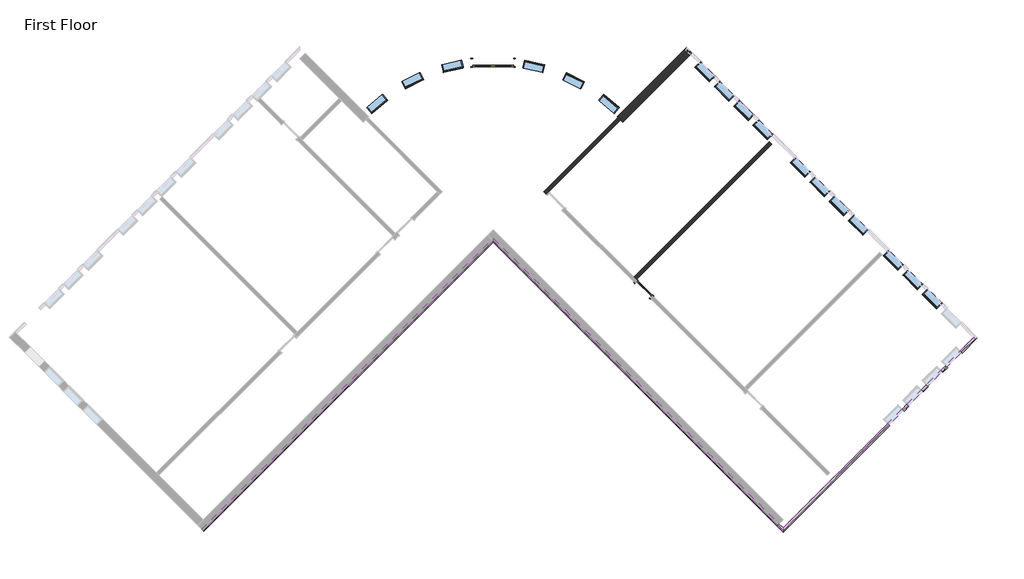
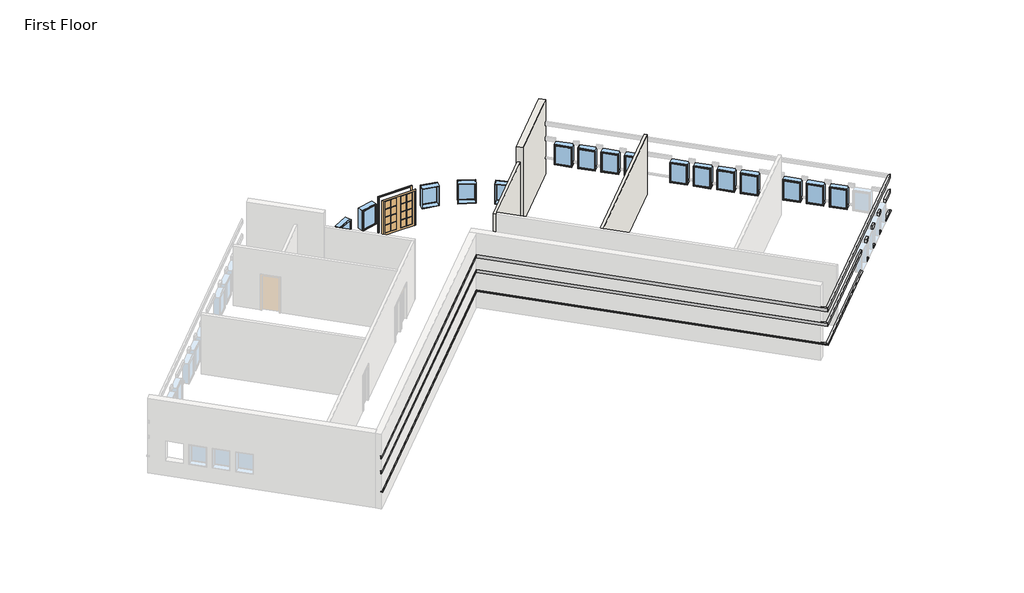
# One storey, part 2 of 3: 17 windows, 9 proxies, 3 walls, 2 doors.
"""IFC4 building model written with IfcOpenShell, lengths in millimetres."""

import ifcopenshell
import ifcopenshell.guid

model = None  # the IFC model being written
_history = None  # IfcOwnerHistory: only IFC2X3 demands one
_inside = {}  # id of a spatial element -> (the spatial element, [elements in it])
_under = {}  # id of a project, library or spatial element -> (it, [spatial elements below it])
_declared = {}  # id of a project -> (the project, [libraries it declares])
_typed = {}  # id of a type object -> (the type object, [elements of that type])
_made_of = {}  # id of a material, layer set ... -> (it, [elements and type objects made of it])


def new_model(schema):
    """Start an empty IFC model of exactly this schema.

    Asked for "IFC4X3", IfcOpenShell would pick the latest addendum, in which some entities
    have other attributes; the version numbers below select the first issue.
    IFC2X3 requires an IfcOwnerHistory on every rooted entity: one is made here for all.
    """
    global model, _history
    if schema == "IFC4X3":
        model = ifcopenshell.file(schema_version=(4, 3, 0, 0))
    else:
        model = ifcopenshell.file(schema=schema)
    _inside.clear()
    _under.clear()
    _declared.clear()
    _typed.clear()
    _made_of.clear()
    _history = None
    if model.schema == "IFC2X3":
        org = make("IfcOrganization", Name="unknown")
        user = make(
            "IfcPersonAndOrganization",
            ThePerson=make("IfcPerson", FamilyName="unknown"),
            TheOrganization=org,
        )
        app = make(
            "IfcApplication",
            ApplicationDeveloper=org,
            Version="unknown",
            ApplicationFullName="unknown",
            ApplicationIdentifier="unknown",
        )
        _history = make(
            "IfcOwnerHistory",
            OwningUser=user,
            OwningApplication=app,
            ChangeAction="ADDED",
            CreationDate=0,
        )
    return model


def make(cls, **values):
    """One entity of the class cls with the attributes given. An attribute that is None is left unset."""
    return model.create_entity(
        cls, **{name: value for name, value in values.items() if value is not None}
    )


def rooted(cls, **values):
    """An entity with a GlobalId (a new one), such as an element, a storey or a relation."""
    return make(cls, GlobalId=ifcopenshell.guid.new(), OwnerHistory=_history, **values)


def si_unit(unit_type, name, prefix=None):
    """IfcSIUnit, for example si_unit("LENGTHUNIT", "METRE", prefix="MILLI")."""
    return make("IfcSIUnit", UnitType=unit_type, Prefix=prefix, Name=name)


def assignment(units):
    """IfcUnitAssignment: the units of a project."""
    return None if units is None else make("IfcUnitAssignment", Units=units)


def point(xyz):
    """IfcCartesianPoint."""
    return None if xyz is None else make("IfcCartesianPoint", Coordinates=xyz)


def direction(xyz):
    """IfcDirection."""
    return None if xyz is None else make("IfcDirection", DirectionRatios=xyz)


def frame(location, z_axis=None, x_axis=None):
    """IfcAxis2Placement3D, a coordinate frame: its origin and axes. An axis left out is left unset."""
    return make(
        "IfcAxis2Placement3D",
        Location=point(location),
        Axis=direction(z_axis),
        RefDirection=direction(x_axis),
    )


def origin():
    """The frame at (0, 0, 0) with its axes left unset."""
    return frame((0.0, 0.0, 0.0))


def origin_with_axes():
    """The frame at (0, 0, 0) with the z axis (0, 0, 1) and the x axis (1, 0, 0) written out."""
    return frame((0.0, 0.0, 0.0), z_axis=(0.0, 0.0, 1.0), x_axis=(1.0, 0.0, 0.0))


def place(relative_to, where):
    """IfcLocalPlacement: puts the frame where relative to a parent placement (None: the world)."""
    return make(
        "IfcLocalPlacement", PlacementRelTo=relative_to, RelativePlacement=where
    )


def context(
    kind, dimensions, precision=None, world=None, true_north=None, identifier=None
):
    """IfcGeometricRepresentationContext, for example the 3D "Model" context."""
    return make(
        "IfcGeometricRepresentationContext",
        ContextIdentifier=identifier,
        ContextType=kind,
        CoordinateSpaceDimension=dimensions,
        Precision=precision,
        WorldCoordinateSystem=world,
        TrueNorth=true_north,
    )


def project(units=None, contexts=None):
    """IfcProject with its units and contexts."""
    return rooted(
        "IfcProject",
        Name="project",
        RepresentationContexts=contexts,
        UnitsInContext=assignment(units),
    )


def spatial(cls, under=None, at=None, **own):
    """A site, building, storey or space (cls), placed at a placement, below another one or the project."""
    s = rooted(cls, ObjectPlacement=at, **own)
    if under is not None:
        _under.setdefault(under.id(), (under, []))[1].append(s)
    return s


def polyline(points):
    """IfcPolyline through the points."""
    return make("IfcPolyline", Points=[point(p) for p in points])


def circle_curve(where, radius):
    """IfcCircle in the frame where."""
    return make("IfcCircle", Position=where, Radius=radius)


def outline(outer, holes=None, kind="AREA"):
    """IfcArbitraryClosedProfileDef: a profile drawn as a closed curve; with holes, ...WithVoids."""
    if holes is None:
        return make("IfcArbitraryClosedProfileDef", ProfileType=kind, OuterCurve=outer)
    return make(
        "IfcArbitraryProfileDefWithVoids",
        ProfileType=kind,
        OuterCurve=outer,
        InnerCurves=holes,
    )


def extrude(swept, where, along, depth):
    """IfcExtrudedAreaSolid: the profile swept, set in the frame where, extruded along a direction by depth."""
    return make(
        "IfcExtrudedAreaSolid",
        SweptArea=swept,
        Position=where,
        ExtrudedDirection=direction(along),
        Depth=depth,
    )


def faces_of(points, faces, orient=None, outer=None):
    """IfcFace entities. A face is a list of loops; a loop is a list of indices into points, from 0.

    orient and outer hold one flag for each loop. By default every Orientation is true, the
    first loop of a face is its IfcFaceOuterBound and the others are IfcFaceBound.
    """
    made = []
    for i, loops in enumerate(faces):
        bounds = []
        for j, loop in enumerate(loops):
            is_outer = j == 0 if outer is None else outer[i][j]
            bounds.append(
                make(
                    "IfcFaceOuterBound" if is_outer else "IfcFaceBound",
                    Bound=make("IfcPolyLoop", Polygon=[points[k] for k in loop]),
                    Orientation=True if orient is None else orient[i][j],
                )
            )
        made.append(make("IfcFace", Bounds=bounds))
    return made


def faceted_brep(points, faces, orient=None, outer=None, voids=None):
    """IfcFacetedBrep: a solid bounded by flat faces; with voids (closed shells), ...WithVoids."""
    shared = [point(p) for p in points]
    hull = make("IfcClosedShell", CfsFaces=faces_of(shared, faces, orient, outer))
    if voids is None:
        return make("IfcFacetedBrep", Outer=hull)
    return make(
        "IfcFacetedBrepWithVoids",
        Outer=hull,
        Voids=[
            make(cls, CfsFaces=faces_of(shared, fs, o, b)) for cls, fs, o, b in voids
        ],
    )


def shape(context_of_items, identifier, shape_type, items):
    """IfcShapeRepresentation: the items that make up one representation, for example the "Body"."""
    return make(
        "IfcShapeRepresentation",
        ContextOfItems=context_of_items,
        RepresentationIdentifier=identifier,
        RepresentationType=shape_type,
        Items=items,
    )


def source(mapping_origin, context_of_items, identifier, shape_type, items):
    """IfcRepresentationMap: a shape defined once, which mapped items show again and again."""
    return make(
        "IfcRepresentationMap",
        MappingOrigin=mapping_origin,
        MappedRepresentation=shape(context_of_items, identifier, shape_type, items),
    )


def transform(
    local_origin,
    x_axis=None,
    y_axis=None,
    z_axis=None,
    scale=None,
    scale2=None,
    scale3=None,
    uniform=True,
):
    """IfcCartesianTransformationOperator3D, or its non-uniform kind. x_axis, y_axis, z_axis: its Axis1, 2, 3."""
    if uniform:
        return make(
            "IfcCartesianTransformationOperator3D",
            Axis1=direction(x_axis),
            Axis2=direction(y_axis),
            LocalOrigin=point(local_origin),
            Scale=scale,
            Axis3=direction(z_axis),
        )
    return make(
        "IfcCartesianTransformationOperator3DnonUniform",
        Axis1=direction(x_axis),
        Axis2=direction(y_axis),
        LocalOrigin=point(local_origin),
        Scale=scale,
        Axis3=direction(z_axis),
        Scale2=scale2,
        Scale3=scale3,
    )


def mapped(mapping_source, mapping_target):
    """IfcMappedItem: shows the shape of a source again, moved by a transform."""
    return make(
        "IfcMappedItem", MappingSource=mapping_source, MappingTarget=mapping_target
    )


def made_of(thing, what):
    """Note that an element or type object is made of a material, layer set ...; save() writes the relation."""
    if what is not None:
        _made_of.setdefault(what.id(), (what, []))[1].append(thing)
    return thing


def element(
    cls,
    number,
    at=None,
    inside=None,
    cuts=None,
    type_object=None,
    material=None,
    context=None,
    identifier="Body",
    shape_type=None,
    held_by="IfcProductDefinitionShape",
    body=None,
    shapes=None,
    **own,
):
    """One element of the class cls, such as IfcWall. Its Tag is "e" and its number.

    at: its placement. inside: the storey or other place that contains it. cuts: it is an
    opening in that element (IfcRelVoidsElement). A single representation is given by context,
    identifier, shape_type and body (its items); several are given by shapes. held_by: the class
    of the entity that holds the representations. save() writes the other relations.
    """
    e = rooted(cls, Tag="e%d" % number, ObjectPlacement=at, **own)
    if body is not None:
        shapes = [shape(context, identifier, shape_type, body)]
    if shapes is not None:
        e.Representation = make(held_by, Representations=shapes)
    if inside is not None:
        _inside.setdefault(inside.id(), (inside, []))[1].append(e)
    if cuts is not None:
        rooted(
            "IfcRelVoidsElement", RelatingBuildingElement=cuts, RelatedOpeningElement=e
        )
    if type_object is not None:
        _typed.setdefault(type_object.id(), (type_object, []))[1].append(e)
    return made_of(e, material)


def aggregate(whole, parts):
    """IfcRelAggregates: a whole, such as a stair, and the parts it consists of."""
    return rooted("IfcRelAggregates", RelatingObject=whole, RelatedObjects=parts)


def save(model, path):
    """Write the relations noted so far, then the file.

    IfcRelAggregates (storeys below a building ...), IfcRelContainedInSpatialStructure (elements
    in a storey), IfcRelDefinesByType, IfcRelAssociatesMaterial and IfcRelDeclares: one each for
    every whole, place, type object, material and project.
    """
    for whole, parts in _under.values():
        aggregate(whole, parts)
    for where, things in _inside.values():
        rooted(
            "IfcRelContainedInSpatialStructure",
            RelatedElements=things,
            RelatingStructure=where,
        )
    for kind, things in _typed.values():
        rooted("IfcRelDefinesByType", RelatedObjects=things, RelatingType=kind)
    for what, things in _made_of.values():
        rooted("IfcRelAssociatesMaterial", RelatedObjects=things, RelatingMaterial=what)
    for by, libraries in _declared.values():
        rooted("IfcRelDeclares", RelatingContext=by, RelatedDefinitions=libraries)
    model.write(path)


def plane_surface(at):
    """IfcPlane: the flat surface through the origin of the frame at, square to its z axis."""
    return make("IfcPlane", Position=at)


def cylinder_surface(at, radius):
    """IfcCylindricalSurface: all points at the distance radius from the z axis of the frame at."""
    return make("IfcCylindricalSurface", Position=at, Radius=radius)


def revolved_surface(curve, axis_point, axis_direction):
    """IfcSurfaceOfRevolution: the curve turned about the line through axis_point along axis_direction."""
    return make(
        "IfcSurfaceOfRevolution",
        SweptCurve=make("IfcArbitraryOpenProfileDef", ProfileType="CURVE", Curve=curve),
        AxisPosition=make("IfcAxis1Placement", Location=point(axis_point), Axis=direction(axis_direction)),
    )


def advanced_brep(points, edges, surfaces, faces):
    """IfcAdvancedBrep: a solid bounded by faces that lie on surfaces and meet in shared edges.

    An edge is (start, end): straight between two places in points (the first is 0);
    or (start, end, curve); or (start, end, curve, False) where it runs against its curve.
    A face is (place in surfaces, loops), or (place, loops, False) where it looks against
    its surface's normal. A loop lists edges by number (the first is 1), with a minus sign
    where the edge is run from its end to its start. The first loop is the outer one.
    """
    corners = [point(p) for p in points]
    vertices = [make("IfcVertexPoint", VertexGeometry=c) for c in corners]
    made = []
    for start, end, *more in edges:
        made.append(
            make(
                "IfcEdgeCurve",
                EdgeStart=vertices[start],
                EdgeEnd=vertices[end],
                EdgeGeometry=more[0] if more else make("IfcPolyline", Points=[corners[start], corners[end]]),
                SameSense=more[1] if len(more) > 1 else True,
            )
        )
    hull = []
    for where, loops, *sense in faces:
        bounds = []
        for j, loop in enumerate(loops):
            ring = [make("IfcOrientedEdge", EdgeElement=made[abs(k) - 1], Orientation=k > 0) for k in loop]
            bounds.append(
                make(
                    "IfcFaceOuterBound" if j == 0 else "IfcFaceBound",
                    Bound=make("IfcEdgeLoop", EdgeList=ring),
                    Orientation=True,
                )
            )
        hull.append(make("IfcAdvancedFace", Bounds=bounds, FaceSurface=surfaces[where], SameSense=sense[0] if sense else True))
    return make("IfcAdvancedBrep", Outer=make("IfcClosedShell", CfsFaces=hull))


def door_0a477ef8(model_context):
    return source(origin(), model_context, "Body", "SweptSolid", [
        extrude(outline(polyline([(469.9, 157.1625), (787.4, 157.1625), (787.4, 144.4625), (469.9, 144.4625), (469.9, 157.1625)])), frame((0.0, 0.0, 1593.85), z_axis=(0.0, 0.0, 1.0), x_axis=(1.0, 0.0, 0.0)), (0.0, 0.0, 1.0), 463.55),
        extrude(outline(polyline([(127.0, 157.1625), (444.5, 157.1625), (444.5, 144.4625), (127.0, 144.4625), (127.0, 157.1625)])), frame((0.0, 0.0, 1593.85), z_axis=(0.0, 0.0, 1.0), x_axis=(1.0, 0.0, 0.0)), (0.0, 0.0, 1.0), 463.55),
        extrude(outline(polyline([(-444.5, 157.1625), (-127.0, 157.1625), (-127.0, 144.4625), (-444.5, 144.4625), (-444.5, 157.1625)])), frame((0.0, 0.0, 1593.85), z_axis=(0.0, 0.0, 1.0), x_axis=(1.0, 0.0, 0.0)), (0.0, 0.0, 1.0), 463.55),
        extrude(outline(polyline([(-787.4, 157.1625), (-469.9, 157.1625), (-469.9, 144.4625), (-787.4, 144.4625), (-787.4, 157.1625)])), frame((0.0, 0.0, 1593.85), z_axis=(0.0, 0.0, 1.0), x_axis=(1.0, 0.0, 0.0)), (0.0, 0.0, 1.0), 463.55),
        extrude(outline(polyline([(-787.4, 157.1625), (-469.9, 157.1625), (-469.9, 144.4625), (-787.4, 144.4625), (-787.4, 157.1625)])), frame((0.0, 0.0, 1104.9), z_axis=(0.0, 0.0, 1.0), x_axis=(1.0, 0.0, 0.0)), (0.0, 0.0, 1.0), 463.55),
        extrude(outline(polyline([(-444.5, 157.1625), (-127.0, 157.1625), (-127.0, 144.4625), (-444.5, 144.4625), (-444.5, 157.1625)])), frame((0.0, 0.0, 1104.9), z_axis=(0.0, 0.0, 1.0), x_axis=(1.0, 0.0, 0.0)), (0.0, 0.0, 1.0), 463.55),
        extrude(outline(polyline([(127.0, 157.1625), (444.5, 157.1625), (444.5, 144.4625), (127.0, 144.4625), (127.0, 157.1625)])), frame((0.0, 0.0, 1104.9), z_axis=(0.0, 0.0, 1.0), x_axis=(1.0, 0.0, 0.0)), (0.0, 0.0, 1.0), 463.55),
        extrude(outline(polyline([(469.9, 157.1625), (787.4, 157.1625), (787.4, 144.4625), (469.9, 144.4625), (469.9, 157.1625)])), frame((0.0, 0.0, 1104.9), z_axis=(0.0, 0.0, 1.0), x_axis=(1.0, 0.0, 0.0)), (0.0, 0.0, 1.0), 463.55),
        extrude(outline(polyline([(469.9, 157.1625), (787.4, 157.1625), (787.4, 144.4625), (469.9, 144.4625), (469.9, 157.1625)])), frame((0.0, 0.0, 615.95), z_axis=(0.0, 0.0, 1.0), x_axis=(1.0, 0.0, 0.0)), (0.0, 0.0, 1.0), 463.55),
        extrude(outline(polyline([(127.0, 157.1625), (444.5, 157.1625), (444.5, 144.4625), (127.0, 144.4625), (127.0, 157.1625)])), frame((0.0, 0.0, 615.95), z_axis=(0.0, 0.0, 1.0), x_axis=(1.0, 0.0, 0.0)), (0.0, 0.0, 1.0), 463.55),
        extrude(outline(polyline([(-444.5, 157.1625), (-127.0, 157.1625), (-127.0, 144.4625), (-444.5, 144.4625), (-444.5, 157.1625)])), frame((0.0, 0.0, 615.95), z_axis=(0.0, 0.0, 1.0), x_axis=(1.0, 0.0, 0.0)), (0.0, 0.0, 1.0), 463.55),
        extrude(outline(polyline([(-787.4, 157.1625), (-469.9, 157.1625), (-469.9, 144.4625), (-787.4, 144.4625), (-787.4, 157.1625)])), frame((0.0, 0.0, 615.95), z_axis=(0.0, 0.0, 1.0), x_axis=(1.0, 0.0, 0.0)), (0.0, 0.0, 1.0), 463.55),
        extrude(outline(polyline([(469.9, 157.1625), (787.4, 157.1625), (787.4, 144.4625), (469.9, 144.4625), (469.9, 157.1625)])), frame((0.0, 0.0, 127.0), z_axis=(0.0, 0.0, 1.0), x_axis=(1.0, 0.0, 0.0)), (0.0, 0.0, 1.0), 463.55),
        extrude(outline(polyline([(127.0, 157.1625), (444.5, 157.1625), (444.5, 144.4625), (127.0, 144.4625), (127.0, 157.1625)])), frame((0.0, 0.0, 127.0), z_axis=(0.0, 0.0, 1.0), x_axis=(1.0, 0.0, 0.0)), (0.0, 0.0, 1.0), 463.55),
        extrude(outline(polyline([(-444.5, 157.1625), (-127.0, 157.1625), (-127.0, 144.4625), (-444.5, 144.4625), (-444.5, 157.1625)])), frame((0.0, 0.0, 127.0), z_axis=(0.0, 0.0, 1.0), x_axis=(1.0, 0.0, 0.0)), (0.0, 0.0, 1.0), 463.55),
        extrude(outline(polyline([(-787.4, 157.1625), (-469.9, 157.1625), (-469.9, 144.4625), (-787.4, 144.4625), (-787.4, 157.1625)])), frame((0.0, 0.0, 127.0), z_axis=(0.0, 0.0, 1.0), x_axis=(1.0, 0.0, 0.0)), (0.0, 0.0, 1.0), 463.55),
        extrude(outline(polyline([(2133.6, 0.0), (2133.6, -914.4), (0.0, -914.4), (0.0, 0.0), (0.0, 914.4), (2133.6, 914.4), (2133.6, 0.0)]), holes=[polyline([(2057.4, 469.9), (2057.4, 787.4), (1593.85, 787.4), (1593.85, 469.9), (2057.4, 469.9)]), polyline([(2057.4, 127.0), (2057.4, 444.5), (1593.85, 444.5), (1593.85, 127.0), (2057.4, 127.0)]), polyline([(1568.45, 469.9), (1568.45, 787.4), (1104.9, 787.4), (1104.9, 469.9), (1568.45, 469.9)]), polyline([(1568.45, 127.0), (1568.45, 444.5), (1104.9, 444.5), (1104.9, 127.0), (1568.45, 127.0)]), polyline([(1079.5, 469.9), (1079.5, 787.4), (615.95, 787.4), (615.95, 469.9), (1079.5, 469.9)]), polyline([(1079.5, 127.0), (1079.5, 444.5), (615.95, 444.5), (615.95, 127.0), (1079.5, 127.0)]), polyline([(590.55, 469.9), (590.55, 787.4), (127.0, 787.4), (127.0, 469.9), (590.55, 469.9)]), polyline([(590.55, 127.0), (590.55, 444.5), (127.0, 444.5), (127.0, 127.0), (590.55, 127.0)]), polyline([(2057.4, -444.5), (2057.4, -127.0), (1593.85, -127.0), (1593.85, -444.5), (2057.4, -444.5)]), polyline([(1568.45, -444.5), (1568.45, -127.0), (1104.9, -127.0), (1104.9, -444.5), (1568.45, -444.5)]), polyline([(1568.45, -469.9), (1104.9, -469.9), (1104.9, -787.4), (1568.45, -787.4), (1568.45, -469.9)]), polyline([(1079.5, -444.5), (1079.5, -127.0), (615.95, -127.0), (615.95, -444.5), (1079.5, -444.5)]), polyline([(1079.5, -469.9), (615.95, -469.9), (615.95, -787.4), (1079.5, -787.4), (1079.5, -469.9)]), polyline([(590.55, -444.5), (590.55, -127.0), (127.0, -127.0), (127.0, -444.5), (590.55, -444.5)]), polyline([(590.55, -787.4), (590.55, -469.9), (127.0, -469.9), (127.0, -787.4), (590.55, -787.4)]), polyline([(1593.85, -469.9), (1593.85, -787.4), (2057.4, -787.4), (2057.4, -469.9), (1593.85, -469.9)])]), frame((0.0, 125.4125, 0.0), z_axis=(0.0, 1.0, 0.0), x_axis=(0.0, 0.0, 1.0)), (0.0, 0.0, 1.0), 50.8),
        extrude(outline(polyline([(2133.6, -914.4), (2133.6, 914.4), (0.0, 914.4), (0.0, 990.6), (2209.8, 990.6), (2209.8, -990.6), (0.0, -990.6), (0.0, -914.4), (2133.6, -914.4)])), frame((0.0, -201.6125, 0.0), z_axis=(0.0, 1.0, 0.0), x_axis=(0.0, 0.0, 1.0)), (0.0, 0.0, 1.0), 25.4),
        extrude(outline(polyline([(2133.6, -914.4), (2133.6, 914.4), (0.0, 914.4), (0.0, 990.6), (2209.8, 990.6), (2209.8, -990.6), (0.0, -990.6), (0.0, -914.4), (2133.6, -914.4)])), frame((0.0, 176.2125, 0.0), z_axis=(0.0, 1.0, 0.0), x_axis=(0.0, 0.0, 1.0)), (0.0, 0.0, 1.0), 25.4),
    ])


def door_5f5b55da(model_context):
    return source(origin(), model_context, "Body", "SweptSolid", [
        extrude(outline(polyline([(2133.6, 457.2), (0.0, 457.2), (0.0, 533.4), (2209.8, 533.4), (2209.8, -533.4), (0.0, -533.4), (0.0, -457.2), (2133.6, -457.2), (2133.6, 457.2)])), frame((0.0, 77.7875, 0.0), z_axis=(0.0, 1.0, 0.0), x_axis=(0.0, 0.0, 1.0)), (0.0, 0.0, 1.0), 25.4),
        extrude(outline(polyline([(2133.6, 457.2), (0.0, 457.2), (0.0, 533.4), (2209.8, 533.4), (2209.8, -533.4), (0.0, -533.4), (0.0, -457.2), (2133.6, -457.2), (2133.6, 457.2)])), frame((0.0, -103.1875, 0.0), z_axis=(0.0, 1.0, 0.0), x_axis=(0.0, 0.0, 1.0)), (0.0, 0.0, 1.0), 25.4),
        extrude(outline(polyline([(355.6, -49.2125), (355.6, -55.5625), (-355.6, -55.5625), (-355.6, -49.2125), (355.6, -49.2125)])), frame((0.0, 0.0, 101.6), z_axis=(0.0, 0.0, 1.0), x_axis=(1.0, 0.0, 0.0)), (0.0, 0.0, 1.0), 1930.4),
        extrude(outline(polyline([(2133.6, 457.2), (2133.6, -457.2), (0.0, -457.2), (0.0, 457.2), (2133.6, 457.2)]), holes=[polyline([(2032.0, -355.6), (2032.0, 355.6), (101.6, 355.6), (101.6, -355.6), (2032.0, -355.6)])]), frame((0.0, -77.7875, 0.0), z_axis=(0.0, 1.0, 0.0), x_axis=(0.0, 0.0, 1.0)), (0.0, 0.0, 1.0), 50.8),
    ])


def window_15c49d37(model_context):
    return source(origin(), model_context, "Body", "SweptSolid", [
        extrude(outline(polyline([(355.6, 128.5875), (-431.8, 128.5875), (-431.8, 141.2875), (355.6, 141.2875), (355.6, 128.5875)])), frame((0.0, 0.0, 977.9), z_axis=(0.0, 0.0, 1.0), x_axis=(1.0, 0.0, 0.0)), (0.0, 0.0, 1.0), 1092.2),
        extrude(outline(polyline([(2114.55, -476.25), (933.45, -476.25), (933.45, 400.05), (2114.55, 400.05), (2114.55, -476.25)]), holes=[polyline([(2070.1, -431.8), (2070.1, 355.6), (977.9, 355.6), (977.9, -431.8), (2070.1, -431.8)])]), frame((0.0, 112.7125, 0.0), z_axis=(0.0, 1.0, 0.0), x_axis=(0.0, 0.0, 1.0)), (0.0, 0.0, 1.0), 44.45),
        extrude(outline(polyline([(2133.6, -495.3), (914.4, -495.3), (914.4, 419.1), (2133.6, 419.1), (2133.6, -495.3)]), holes=[polyline([(2101.85, -463.55), (2101.85, 387.35), (946.15, 387.35), (946.15, -463.55), (2101.85, -463.55)])]), frame((0.0, -176.2125, 0.0), z_axis=(0.0, 1.0, 0.0), x_axis=(0.0, 0.0, 1.0)), (0.0, 0.0, 1.0), 288.925),
        extrude(outline(polyline([(2133.6, 419.1), (2133.6, -495.3), (914.4, -495.3), (914.4, 419.1), (2133.6, 419.1)]), holes=[polyline([(2114.55, 400.05), (933.45, 400.05), (933.45, -476.25), (2114.55, -476.25), (2114.55, 400.05)])]), frame((0.0, 112.7125, 0.0), z_axis=(0.0, 1.0, 0.0), x_axis=(0.0, 0.0, 1.0)), (0.0, 0.0, 1.0), 63.5),
    ])


def window_0e2fc6ce(model_context):
    return source(origin(), model_context, "Body", "SweptSolid", [
        extrude(outline(polyline([(355.6, -128.5875), (355.6, -141.2875), (-431.8, -141.2875), (-431.8, -128.5875), (355.6, -128.5875)])), frame((0.0, 0.0, 977.9), z_axis=(0.0, 0.0, 1.0), x_axis=(1.0, 0.0, 0.0)), (0.0, 0.0, 1.0), 1092.2),
        extrude(outline(polyline([(2114.55, -476.25), (933.45, -476.25), (933.45, 400.05), (2114.55, 400.05), (2114.55, -476.25)]), holes=[polyline([(2070.1, -431.8), (2070.1, 355.6), (977.9, 355.6), (977.9, -431.8), (2070.1, -431.8)])]), frame((0.0, -157.1625, 0.0), z_axis=(0.0, 1.0, 0.0), x_axis=(0.0, 0.0, 1.0)), (0.0, 0.0, 1.0), 44.45),
        extrude(outline(polyline([(2133.6, -495.3), (914.4, -495.3), (914.4, 419.1), (2133.6, 419.1), (2133.6, -495.3)]), holes=[polyline([(2101.85, -463.55), (2101.85, 387.35), (946.15, 387.35), (946.15, -463.55), (2101.85, -463.55)])]), frame((0.0, -112.7125, 0.0), z_axis=(0.0, 1.0, 0.0), x_axis=(0.0, 0.0, 1.0)), (0.0, 0.0, 1.0), 288.925),
        extrude(outline(polyline([(2133.6, 419.1), (2133.6, -495.3), (914.4, -495.3), (914.4, 419.1), (2133.6, 419.1)]), holes=[polyline([(2114.55, 400.05), (933.45, 400.05), (933.45, -476.25), (2114.55, -476.25), (2114.55, 400.05)])]), frame((0.0, -176.2125, 0.0), z_axis=(0.0, 1.0, 0.0), x_axis=(0.0, 0.0, 1.0)), (0.0, 0.0, 1.0), 63.5),
    ])


model = new_model("IFC4")

# Units and contexts
model_context = context("Model", 3, world=origin())
ifc_project = project(units=[si_unit("LENGTHUNIT", "METRE", prefix="MILLI")], contexts=[model_context])

# Site, building, storey
site = spatial("IfcSite", under=ifc_project)
building = spatial("IfcBuilding", under=site)
storey = spatial("IfcBuildingStorey", under=building, Name="First Floor", Elevation=0.0)

# Proxies
placement = place(None, origin())
element("IfcBuildingElementProxy", 1, Name="Wall Sweeps", at=placement, inside=storey, context=model_context, shape_type="Brep", body=[
    faceted_brep([(18554.3726125, -1357.9895101, 1085.85), (18684.5863263, -1357.9895101, 1085.85), (18733.9777349, -1357.9895101, 1041.4), (18733.9777349, -1357.9895101, 1016.0), (18554.3726125, -1357.9895101, 1016.0), (17956.0630484, -1956.2990742, 1085.85), (17956.0630484, -1956.2990742, 1016.0), (18021.1699053, -2021.405931, 1016.0), (18045.8656096, -2046.1016354, 1016.0), (18045.8656096, -2046.1016354, 1041.4), (18021.1699053, -2021.405931, 1085.85), (18370.277362, -1542.0847606, 1085.85), (18370.277362, -1542.0847606, 1016.0)], [[[0, 1, 2, 3, 4]], [[5, 6, 7, 8, 9, 10]], [[1, 0, 11, 5, 10]], [[2, 1, 10, 9]], [[3, 2, 9, 8]], [[4, 3, 8, 7, 6, 12]], [[0, 4, 12, 6, 5, 11]]]),
    faceted_brep([(17309.4846077, -2602.8775149, 1085.85), (17374.5914646, -2667.9843718, 1085.85), (17399.2871689, -2692.6800761, 1041.4), (17399.2871689, -2692.6800761, 1016.0), (17374.5914646, -2667.9843718, 1016.0), (17309.4846077, -2602.8775149, 1016.0), (17093.9584608, -2818.4036618, 1085.85), (17093.9584608, -2818.4036618, 1016.0), (17159.0653177, -2883.5105187, 1016.0), (17183.761022, -2908.206223, 1016.0), (17183.761022, -2908.206223, 1041.4), (17159.0653177, -2883.5105187, 1085.85)], [[[0, 1, 2, 3, 4, 5]], [[6, 7, 8, 9, 10, 11]], [[1, 0, 6, 11]], [[2, 1, 11, 10]], [[3, 2, 10, 9]], [[5, 4, 3, 9, 8, 7]], [[0, 5, 7, 6]]]),
    faceted_brep([(16447.3800201, -3464.9821025, 1085.85), (16512.486877, -3530.0889594, 1085.85), (16537.1825813, -3554.7846637, 1041.4), (16537.1825813, -3554.7846637, 1016.0), (16512.486877, -3530.0889594, 1016.0), (16447.3800201, -3464.9821025, 1016.0), (16231.8538732, -3680.5082494, 1085.85), (16231.8538732, -3680.5082494, 1016.0), (16296.9607301, -3745.6151063, 1016.0), (16321.6564344, -3770.3108106, 1016.0), (16321.6564344, -3770.3108106, 1041.4), (16296.9607301, -3745.6151063, 1085.85)], [[[0, 1, 2, 3, 4, 5]], [[6, 7, 8, 9, 10, 11]], [[1, 0, 6, 11]], [[2, 1, 11, 10]], [[3, 2, 10, 9]], [[5, 4, 3, 9, 8, 7]], [[0, 5, 7, 6]]]),
    faceted_brep([(15585.2754325, -4327.0866901, 1085.85), (15650.3822894, -4392.193547, 1085.85), (15675.0779937, -4416.8892513, 1041.4), (15675.0779937, -4416.8892513, 1016.0), (15650.3822894, -4392.193547, 1016.0), (15585.2754325, -4327.0866901, 1016.0), (15369.7492856, -4542.612837, 1085.85), (15369.7492856, -4542.612837, 1016.0), (15434.8561424, -4607.7196939, 1016.0), (15459.5518468, -4632.4153982, 1016.0), (15459.5518468, -4632.4153982, 1041.4), (15434.8561424, -4607.7196939, 1085.85)], [[[0, 1, 2, 3, 4, 5]], [[6, 7, 8, 9, 10, 11]], [[1, 0, 6, 11]], [[2, 1, 11, 10]], [[3, 2, 10, 9]], [[5, 4, 3, 9, 8, 7]], [[0, 5, 7, 6]]]),
    faceted_brep([(14723.1708449, -5189.1912777, 1085.85), (14788.2777017, -5254.2981346, 1085.85), (14812.9734061, -5278.993839, 1041.4), (14812.9734061, -5278.993839, 1016.0), (14788.2777017, -5254.2981346, 1016.0), (14723.1708449, -5189.1912777, 1016.0), (10063.54045, -9848.8216726, 1085.85), (10063.54045, -9848.8216726, 1016.0), (10063.54045, -10028.426795, 1016.0), (10063.54045, -10028.426795, 1041.4), (10063.54045, -9979.0353863, 1085.85)], [[[0, 1, 2, 3, 4, 5]], [[6, 7, 8, 9, 10]], [[1, 0, 6, 10]], [[2, 1, 10, 9]], [[3, 2, 9, 8]], [[5, 4, 3, 8, 7]], [[0, 5, 7, 6]]]),
])
element("IfcBuildingElementProxy", 2, Name="Wall Sweeps", at=placement, inside=storey, context=model_context, shape_type="Brep", body=[
    faceted_brep([(18684.5863263, -1357.9895101, 2336.8), (18684.5863263, -1357.9895101, 2133.6), (18554.3726125, -1357.9895101, 2133.6), (18554.3726125, -1357.9895101, 2336.8), (18021.1699053, -2021.405931, 2336.8), (17956.0630484, -1956.2990742, 2336.8), (17956.0630484, -1956.2990742, 2133.6), (18021.1699053, -2021.405931, 2133.6), (18435.3842189, -1607.1916175, 2336.8), (18435.3842189, -1607.1916175, 2133.6), (18370.277362, -1542.0847606, 2133.6), (18370.277362, -1542.0847606, 2336.8)], [[[0, 1, 2, 3]], [[4, 5, 6, 7]], [[1, 0, 8, 4, 7, 9]], [[2, 1, 9, 7, 6, 10]], [[3, 2, 10, 6, 5, 11]], [[0, 3, 11, 5, 4, 8]]]),
    faceted_brep([(17374.5914646, -2667.9843718, 2336.8), (17374.5914646, -2667.9843718, 2133.6), (17309.4846077, -2602.8775149, 2133.6), (17309.4846077, -2602.8775149, 2336.8), (17159.0653177, -2883.5105187, 2336.8), (17093.9584608, -2818.4036618, 2336.8), (17093.9584608, -2818.4036618, 2133.6), (17159.0653177, -2883.5105187, 2133.6)], [[[0, 1, 2, 3]], [[4, 5, 6, 7]], [[1, 0, 4, 7]], [[2, 1, 7, 6]], [[3, 2, 6, 5]], [[0, 3, 5, 4]]]),
    faceted_brep([(16512.486877, -3530.0889594, 2336.8), (16512.486877, -3530.0889594, 2133.6), (16447.3800201, -3464.9821025, 2133.6), (16447.3800201, -3464.9821025, 2336.8), (16296.9607301, -3745.6151063, 2336.8), (16231.8538732, -3680.5082494, 2336.8), (16231.8538732, -3680.5082494, 2133.6), (16296.9607301, -3745.6151063, 2133.6)], [[[0, 1, 2, 3]], [[4, 5, 6, 7]], [[1, 0, 4, 7]], [[2, 1, 7, 6]], [[3, 2, 6, 5]], [[0, 3, 5, 4]]]),
    faceted_brep([(15650.3822894, -4392.193547, 2336.8), (15650.3822894, -4392.193547, 2133.6), (15585.2754325, -4327.0866901, 2133.6), (15585.2754325, -4327.0866901, 2336.8), (15434.8561424, -4607.7196939, 2336.8), (15369.7492856, -4542.612837, 2336.8), (15369.7492856, -4542.612837, 2133.6), (15434.8561424, -4607.7196939, 2133.6)], [[[0, 1, 2, 3]], [[4, 5, 6, 7]], [[1, 0, 4, 7]], [[2, 1, 7, 6]], [[3, 2, 6, 5]], [[0, 3, 5, 4]]]),
    faceted_brep([(14788.2777017, -5254.2981346, 2336.8), (14788.2777017, -5254.2981346, 2133.6), (14723.1708449, -5189.1912777, 2133.6), (14723.1708449, -5189.1912777, 2336.8), (10063.54045, -9979.0353863, 2336.8), (10063.54045, -9848.8216726, 2336.8), (10063.54045, -9848.8216726, 2133.6), (10063.54045, -9979.0353863, 2133.6)], [[[0, 1, 2, 3]], [[4, 5, 6, 7]], [[1, 0, 4, 7]], [[2, 1, 7, 6]], [[3, 2, 6, 5]], [[0, 3, 5, 4]]]),
])
element("IfcBuildingElementProxy", 3, Name="Wall Sweeps", at=placement, inside=storey, context=model_context, shape_type="Brep", body=[
    faceted_brep([(18684.5863263, -1357.9895101, 3251.2), (18684.5863263, -1357.9895101, 3048.0), (18554.3726125, -1357.9895101, 3048.0), (18554.3726125, -1357.9895101, 3251.2), (10063.54045, -9979.0353863, 3251.2), (10063.54045, -9848.8216726, 3251.2), (10063.54045, -9848.8216726, 3048.0), (10063.54045, -9979.0353863, 3048.0), (18435.3842189, -1607.1916175, 3251.2), (18435.3842189, -1607.1916175, 3048.0), (18370.277362, -1542.0847606, 3048.0), (18370.277362, -1542.0847606, 3251.2)], [[[0, 1, 2, 3]], [[4, 5, 6, 7]], [[1, 0, 8, 4, 7, 9]], [[2, 1, 9, 7, 6, 10]], [[3, 2, 10, 6, 5, 11]], [[0, 3, 11, 5, 4, 8]]]),
])
element("IfcBuildingElementProxy", 4, Name="Wall Sweeps", at=placement, inside=storey, context=model_context, shape_type="Brep", body=[
    faceted_brep([(10063.54045, -9848.8216726, 1085.85), (10063.54045, -9979.0353863, 1085.85), (10063.54045, -10028.426795, 1041.4), (10063.54045, -10028.426795, 1016.0), (10063.54045, -9848.8216726, 1016.0), (-2868.0283643, 3082.7471418, 1085.85), (-2868.0283643, 3082.7471418, 1016.0), (-2868.0283643, 2903.1420194, 1016.0), (-2868.0283643, 2903.1420194, 1041.4), (-2868.0283643, 2952.533428, 1085.85), (9879.4451996, -9664.7264221, 1085.85), (9879.4451996, -9664.7264221, 1016.0)], [[[0, 1, 2, 3, 4]], [[5, 6, 7, 8, 9]], [[1, 0, 10, 5, 9]], [[2, 1, 9, 8]], [[3, 2, 8, 7]], [[4, 3, 7, 6, 11]], [[0, 4, 11, 6, 5, 10]]]),
])
element("IfcBuildingElementProxy", 5, Name="Wall Sweeps", at=placement, inside=storey, context=model_context, shape_type="Brep", body=[
    faceted_brep([(10063.54045, -9979.0353863, 2336.8), (10063.54045, -9979.0353863, 2133.6), (10063.54045, -9848.8216726, 2133.6), (10063.54045, -9848.8216726, 2336.8), (-2868.0283643, 2952.533428, 2336.8), (-2868.0283643, 3082.7471418, 2336.8), (-2868.0283643, 3082.7471418, 2133.6), (-2868.0283643, 2952.533428, 2133.6), (9814.3383427, -9729.833279, 2336.8), (9814.3383427, -9729.833279, 2133.6), (9879.4451996, -9664.7264221, 2133.6), (9879.4451996, -9664.7264221, 2336.8)], [[[0, 1, 2, 3]], [[4, 5, 6, 7]], [[1, 0, 8, 4, 7, 9]], [[2, 1, 9, 7, 6, 10]], [[3, 2, 10, 6, 5, 11]], [[0, 3, 11, 5, 4, 8]]]),
])
element("IfcBuildingElementProxy", 6, Name="Wall Sweeps", at=placement, inside=storey, context=model_context, shape_type="Brep", body=[
    faceted_brep([(10063.54045, -9979.0353863, 3251.2), (10063.54045, -9979.0353863, 3048.0), (10063.54045, -9848.8216726, 3048.0), (10063.54045, -9848.8216726, 3251.2), (-2868.0283643, 2952.533428, 3251.2), (-2868.0283643, 3082.7471418, 3251.2), (-2868.0283643, 3082.7471418, 3048.0), (-2868.0283643, 2952.533428, 3048.0), (9814.3383427, -9729.833279, 3251.2), (9814.3383427, -9729.833279, 3048.0), (9879.4451996, -9664.7264221, 3048.0), (9879.4451996, -9664.7264221, 3251.2)], [[[0, 1, 2, 3]], [[4, 5, 6, 7]], [[1, 0, 8, 4, 7, 9]], [[2, 1, 9, 7, 6, 10]], [[3, 2, 10, 6, 5, 11]], [[0, 3, 11, 5, 4, 8]]]),
])
element("IfcBuildingElementProxy", 7, Name="Wall Sweeps", at=placement, inside=storey, context=model_context, shape_type="Brep", body=[
    faceted_brep([(-2868.0283643, 3082.7471418, 1085.85), (-2868.0283643, 2952.533428, 1085.85), (-2868.0283643, 2903.1420194, 1041.4), (-2868.0283643, 2903.1420194, 1016.0), (-2868.0283643, 3082.7471418, 1016.0), (-15864.7040355, -9913.9285294, 1085.85), (-15864.7040355, -9913.9285294, 1016.0), (-15774.9014743, -10003.7310907, 1016.0), (-15774.9014743, -10003.7310907, 1041.4), (-15799.5971786, -9979.0353863, 1085.85)], [[[0, 1, 2, 3, 4]], [[5, 6, 7, 8, 9]], [[1, 0, 5, 9]], [[2, 1, 9, 8]], [[3, 2, 8, 7]], [[4, 3, 7, 6]], [[0, 4, 6, 5]]]),
])
element("IfcBuildingElementProxy", 8, Name="Wall Sweeps", at=placement, inside=storey, context=model_context, shape_type="SweptSolid", body=[
    extrude(outline(polyline([(-2868.0283643, 3082.7471418), (-2868.0283643, 2952.533428), (-15799.5971786, -9979.0353863), (-15864.7040355, -9913.9285294), (-2868.0283643, 3082.7471418)])), frame((0.0, 0.0, 2133.6), z_axis=(0.0, 0.0, 1.0), x_axis=(1.0, 0.0, 0.0)), (0.0, 0.0, 1.0), 203.2),
])
element("IfcBuildingElementProxy", 9, Name="Wall Sweeps", at=placement, inside=storey, context=model_context, shape_type="SweptSolid", body=[
    extrude(outline(polyline([(-2868.0283643, 3082.7471418), (-2868.0283643, 2952.533428), (-15799.5971786, -9979.0353863), (-15864.7040355, -9913.9285294), (-2868.0283643, 3082.7471418)])), frame((0.0, 0.0, 3048.0), z_axis=(0.0, 0.0, 1.0), x_axis=(1.0, 0.0, 0.0)), (0.0, 0.0, 1.0), 203.2),
])

# Doors
door_shape = door_0a477ef8(model_context)
element("IfcDoor", 10, ObjectType="Double-Glass 2 : 72\" x 84\"", at=placement, inside=storey, context=model_context, shape_type="MappedRepresentation", body=[
    mapped(door_shape, transform((-2868.7603243, 10905.5717204, 0.0), x_axis=(-0.9999999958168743, -9.146721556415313e-05, 0.0), y_axis=(9.146721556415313e-05, -0.9999999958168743, 0.0), z_axis=(0.0, 0.0, 1.0))),
])
door_2_shape = door_5f5b55da(model_context)
element("IfcDoor", 11, ObjectType="Single-Glass 1 : 36\" x 84\"", at=placement, inside=storey, context=model_context, shape_type="MappedRepresentation", body=[
    mapped(door_2_shape, transform((3846.9581502, 797.271959, 0.0), x_axis=(-0.7071067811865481, 0.7071067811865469, 0.0), y_axis=(-0.7071067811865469, -0.7071067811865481, 0.0), z_axis=(0.0, 0.0, 1.0))),
])

# Walls
element("IfcWall", 12, ObjectType="Exterior - Split Face and CMU on Mtl. Stud", at=placement, inside=storey, context=model_context, shape_type="AdvancedBrep", body=[
    advanced_brep(
    [(2921.9555443, 8244.1131219, 0.0), (5753.0175119, 11075.1750895, 0.0), (6002.2196193, 11324.3771969, 0.0), (6002.2196193, 11324.3771969, 1016.0), (5937.1127624, 11259.27034, 1016.0), (5937.1127624, 11259.27034, 1085.85), (6002.2196193, 11324.3771969, 1085.85), (6002.2196193, 11324.3771969, 2133.6), (5937.1127624, 11259.27034, 2133.6), (5937.1127624, 11259.27034, 2336.8), (6002.2196193, 11324.3771969, 2336.8), (6002.2196193, 11324.3771969, 3048.0), (5937.1127624, 11259.27034, 3048.0), (5937.1127624, 11259.27034, 3251.2), (6002.2196193, 11324.3771969, 3251.2), (6002.2196193, 11324.3771969, 4572.0), (5753.0175119, 11075.1750895, 4572.0), (2921.9555443, 8244.1131219, 4572.0), (2677.2250436, 8497.7868359, 4572.0), (2926.4294954, 8746.9912878, 4572.0), (5753.0175119, 11573.5793042, 4572.0), (5753.0175119, 11573.5793042, 3251.2), (2926.4294954, 8746.9912878, 3251.2), (2861.3220456, 8681.8838379, 3251.2), (2861.3220456, 8681.8838379, 3048.0), (2926.4294954, 8746.9912878, 3048.0), (5753.0175119, 11573.5793042, 3048.0), (5753.0175119, 11573.5793042, 2336.8), (2926.4294954, 8746.9912878, 2336.8), (2861.3220456, 8681.8838379, 2336.8), (2861.3220456, 8681.8838379, 2133.6), (2926.4294954, 8746.9912878, 2133.6), (5753.0175119, 11573.5793042, 2133.6), (5753.0175119, 11573.5793042, 1085.85), (2926.4294954, 8746.9912878, 1085.85), (2861.3220456, 8681.8838379, 1085.85), (2861.3220456, 8681.8838379, 1016.0), (2926.4294954, 8746.9912878, 1016.0), (5753.0175119, 11573.5793042, 1016.0), (5753.0175119, 11573.5793042, 0.0), (2926.4294954, 8746.9912878, 0.0), (2677.2250436, 8497.7868359, 0.0), (5818.1243688, 11508.4724474, 0.0), (2712.9544089, 8462.1452813, 0.0), (2742.2400511, 8432.5881297, 0.0), (2821.6568654, 8350.8358404, 0.0), (5753.0175119, 11443.3655905, 1085.85), (2926.3399919, 8616.6880705, 1085.85), (2926.3399919, 8616.6880705, 1016.0), (5753.0175119, 11443.3655905, 1016.0), (2926.3399919, 8616.6880705, 2133.6), (5753.0175119, 11443.3655905, 2133.6), (2926.3399919, 8616.6880705, 2336.8), (5753.0175119, 11443.3655905, 2336.8), (2926.3399919, 8616.6880705, 3048.0), (5753.0175119, 11443.3655905, 3048.0), (2926.3399919, 8616.6880705, 3251.2), (5753.0175119, 11443.3655905, 3251.2)],
    [
        (0, 1),
        (1, 2),
        (2, 3),
        (3, 4),
        (4, 5),
        (5, 6),
        (6, 7),
        (7, 8),
        (8, 9),
        (9, 10),
        (10, 11),
        (11, 12),
        (12, 13),
        (13, 14),
        (14, 15),
        (15, 16),
        (16, 17),
        (17, 0),
        (18, 19),
        (19, 20),
        (20, 21),
        (21, 22),
        (22, 23),
        (23, 24),
        (24, 25),
        (25, 26),
        (26, 27),
        (27, 28),
        (28, 29),
        (29, 30),
        (30, 31),
        (31, 32),
        (32, 33),
        (33, 34),
        (34, 35),
        (35, 36),
        (36, 37),
        (37, 38),
        (38, 39),
        (39, 40),
        (40, 41),
        (41, 18),
        (15, 20),
        (18, 17, circle_curve(frame((-2868.0283643, 2903.1420194, 4572.0), z_axis=(0.0, 0.0, -1.0), x_axis=(1.0, 0.0, 0.0)), 7877.175)),
        (14, 21),
        (2, 42),
        (42, 39),
        (38, 3),
        (6, 33),
        (32, 7),
        (10, 27),
        (26, 11),
        (41, 43, circle_curve(frame((-2868.0283643, 2903.1420194, 0.0), z_axis=(0.0, 0.0, -1.0), x_axis=(1.0, 0.0, 0.0)), 7877.175)),
        (43, 44, circle_curve(frame((-2868.0283643, 2903.1420194, 0.0), z_axis=(0.0, 0.0, -1.0), x_axis=(1.0, 0.0, 0.0)), 7877.175)),
        (44, 45, circle_curve(frame((-2868.0283643, 2903.1420194, 0.0), z_axis=(0.0, 0.0, -1.0), x_axis=(1.0, 0.0, 0.0)), 7877.175)),
        (45, 0, circle_curve(frame((-2868.0283643, 2903.1420194, 0.0), z_axis=(0.0, 0.0, -1.0), x_axis=(1.0, 0.0, 0.0)), 7877.175)),
        (44, 42),
        (46, 47),
        (47, 35, circle_curve(frame((-2868.0283643, 2903.1420194, 1085.85), z_axis=(0.0, 0.0, 1.0), x_axis=(0.6844196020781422, 0.7290883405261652, 0.0)), 8137.525)),
        (5, 46),
        (48, 49),
        (49, 4),
        (36, 48, circle_curve(frame((-2868.0283643, 2903.1420194, 1016.0), z_axis=(0.0, 0.0, -1.0), x_axis=(0.6844196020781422, 0.7290883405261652, 0.0)), 8137.525)),
        (47, 48),
        (46, 49),
        (50, 51),
        (51, 8),
        (30, 50, circle_curve(frame((-2868.0283643, 2903.1420194, 2133.6), z_axis=(0.0, 0.0, -1.0), x_axis=(0.6844196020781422, 0.7290883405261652, 0.0)), 8137.525)),
        (52, 50),
        (29, 52, circle_curve(frame((-2868.0283643, 2903.1420194, 2336.8), z_axis=(0.0, 0.0, -1.0), x_axis=(0.6844196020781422, 0.7290883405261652, 0.0)), 8137.525)),
        (53, 52),
        (9, 53),
        (53, 51),
        (54, 55),
        (55, 12),
        (24, 54, circle_curve(frame((-2868.0283643, 2903.1420194, 3048.0), z_axis=(0.0, 0.0, -1.0), x_axis=(-0.7040995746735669, 0.7101012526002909, 0.0)), 8137.525)),
        (56, 54),
        (23, 56, circle_curve(frame((-2868.0283643, 2903.1420194, 3251.2), z_axis=(0.0, 0.0, -1.0), x_axis=(-0.7040995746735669, 0.7101012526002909, 0.0)), 8137.525)),
        (57, 56),
        (13, 57),
        (57, 55),
    ],
    [
        plane_surface(frame((2984.8535626, 8307.0111402, 0.0), z_axis=(0.707106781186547, -0.7071067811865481, 0.0), x_axis=(0.7071067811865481, 0.707106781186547, 0.0))),
        plane_surface(frame((2735.6514552, 8556.2132476, 0.0), z_axis=(-0.707106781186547, 0.7071067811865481, 0.0), x_axis=(-0.7071067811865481, -0.707106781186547, 0.0))),
        plane_surface(frame((5877.6185656, 11199.7761432, 4572.0), z_axis=(0.0, 0.0, 1.0), x_axis=(-0.707106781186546, 0.7071067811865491, 0.0))),
        plane_surface(frame((5753.0175119, 11573.5793042, 0.0), z_axis=(0.7071067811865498, 0.7071067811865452, 0.0), x_axis=(-0.7071067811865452, 0.7071067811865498, 0.0))),
        revolved_surface(polyline([(5009.146635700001, 2903.1420194, 0.0), (5009.146635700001, 2903.1420194, 4572.0)]), (-2868.0283643, 2903.1420194, 0.0), (0.0, 0.0, -1.0)),
        plane_surface(frame((3050.2065213, 8372.3640989, 0.0), z_axis=(0.0, 0.0, -1.0000000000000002), x_axis=(-0.7071067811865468, 0.7071067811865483, 0.0))),
        plane_surface(frame((0.0, 0.0, 0.0), z_axis=(0.0, 0.0, -1.0), x_axis=(1.0, 0.0, 0.0))),
        plane_surface(frame((-2868.0283643, 2903.1420194, 1085.85), z_axis=(0.0, 0.0, -1.0), x_axis=(0.6844196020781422, 0.7290883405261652, 0.0))),
        plane_surface(frame((-2868.0283643, 2903.1420194, 1016.0), z_axis=(0.0, 0.0, 1.0), x_axis=(0.6844196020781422, 0.7290883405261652, 0.0))),
        cylinder_surface(frame((-2868.0283643, 2903.1420194, 1016.0), z_axis=(0.0, 0.0, -1.0), x_axis=(0.6844196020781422, 0.7290883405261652, 0.0)), 8137.525),
        plane_surface(frame((2926.3399919, 8616.6880705, 1016.0), z_axis=(-0.7071067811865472, 0.7071067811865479, 0.0), x_axis=(0.7071067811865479, 0.7071067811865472, 0.0))),
        plane_surface(frame((5753.0175119, 11443.3655905, 1016.0), z_axis=(0.7071067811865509, 0.7071067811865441, 0.0), x_axis=(0.7071067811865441, -0.7071067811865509, 0.0))),
        plane_surface(frame((-2868.0283643, 2903.1420194, 2133.6), z_axis=(0.0, 0.0, 1.0), x_axis=(0.6844196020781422, 0.7290883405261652, 0.0))),
        cylinder_surface(frame((-2868.0283643, 2903.1420194, 2133.6), z_axis=(0.0, 0.0, -1.0), x_axis=(0.6844196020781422, 0.7290883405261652, 0.0)), 8137.525),
        plane_surface(frame((-2868.0283643, 2903.1420194, 2336.8), z_axis=(0.0, 0.0, -1.0), x_axis=(0.6844196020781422, 0.7290883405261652, 0.0))),
        plane_surface(frame((2926.3399919, 8616.6880705, 2133.6), z_axis=(-0.7071067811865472, 0.7071067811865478, 0.0), x_axis=(0.7071067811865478, 0.7071067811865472, 0.0))),
        plane_surface(frame((5753.0175119, 11443.3655905, 2133.6), z_axis=(0.7071067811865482, 0.7071067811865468, 0.0), x_axis=(0.7071067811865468, -0.7071067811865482, 0.0))),
        plane_surface(frame((-2868.0283643, 2903.1420194, 3048.0), z_axis=(0.0, 0.0, 1.0), x_axis=(-0.7040995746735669, 0.7101012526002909, 0.0))),
        cylinder_surface(frame((-2868.0283643, 2903.1420194, 3048.0), z_axis=(0.0, 0.0, -1.0), x_axis=(-0.7040995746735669, 0.7101012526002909, 0.0)), 8137.525),
        plane_surface(frame((-2868.0283643, 2903.1420194, 3251.2), z_axis=(0.0, 0.0, -1.0), x_axis=(-0.7040995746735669, 0.7101012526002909, 0.0))),
        plane_surface(frame((2926.3399919, 8616.6880705, 3048.0), z_axis=(-0.7071067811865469, 0.7071067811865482, 0.0), x_axis=(0.7071067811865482, 0.7071067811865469, 0.0))),
        plane_surface(frame((5753.0175119, 11443.3655905, 3048.0), z_axis=(0.7071067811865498, 0.7071067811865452, 0.0), x_axis=(0.7071067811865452, -0.7071067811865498, 0.0))),
    ],
    [
        (0, [[1, 2, 3, 4, 5, 6, 7, 8, 9, 10, 11, 12, 13, 14, 15, 16, 17, 18]]),
        (1, [[19, 20, 21, 22, 23, 24, 25, 26, 27, 28, 29, 30, 31, 32, 33, 34, 35, 36, 37, 38, 39, 40, 41, 42]]),
        (2, [[-17, -16, 43, -20, -19, 44]]),
        (3, [[-43, -15, 45, -21]]),
        (3, [[46, 47, -39, 48, -3]]),
        (3, [[49, -33, 50, -7]]),
        (3, [[51, -27, 52, -11]]),
        (4, [[-44, -42, 53, 54, 55, 56, -18]]),
        (5, [[-2, -1, -56, -55, 57, -46]]),
        (6, [[-54, -53, -41, -40, -47, -57]]),
        (7, [[58, 59, -35, -34, -49, -6, 60]]),
        (8, [[61, 62, -4, -48, -38, -37, 63]]),
        (9, [[64, -63, -36, -59]]),
        (10, [[-58, 65, -61, -64]]),
        (11, [[-65, -60, -5, -62]]),
        (12, [[66, 67, -8, -50, -32, -31, 68]]),
        (13, [[69, -68, -30, 70]]),
        (14, [[71, -70, -29, -28, -51, -10, 72]]),
        (15, [[-66, -69, -71, 73]]),
        (16, [[-73, -72, -9, -67]]),
        (17, [[74, 75, -12, -52, -26, -25, 76]]),
        (18, [[77, -76, -24, 78]]),
        (19, [[79, -78, -23, -22, -45, -14, 80]]),
        (20, [[-74, -77, -79, 81]]),
        (21, [[-81, -80, -13, -75]]),
    ],
),
])
element("IfcWall", 13, ObjectType="Interior - 6 1/8\" Partition (2-hr)", at=placement, inside=storey, context=model_context, shape_type="AdvancedBrep", body=[
    advanced_brep(
    [(-497.4763129, 5031.6982846, 0.0), (-387.4681754, 5141.7064221, 0.0), (2821.6590066, 8350.8336041, 0.0), (2821.6590066, 8350.8336041, 3657.6), (-387.4681754, 5141.7064221, 3657.6), (-497.4763129, 5031.6982846, 3657.6), (-607.4844504, 5141.7064221, 0.0), (-607.4844504, 5141.7064221, 3657.6), (2712.9544089, 8462.1452813, 3657.6), (2712.9544089, 8462.1452813, 0.0)],
    [
        (0, 1),
        (1, 2),
        (2, 3),
        (3, 4),
        (4, 5),
        (5, 0),
        (6, 7),
        (7, 8),
        (8, 9),
        (9, 6),
        (0, 6),
        (9, 2, circle_curve(frame((-2868.0283643, 2903.1420194, 0.0), z_axis=(0.0, 0.0, -1.0), x_axis=(1.0, 0.0, 0.0)), 7877.175)),
        (3, 8, circle_curve(frame((-2868.0283643, 2903.1420194, 3657.6), z_axis=(0.0, 0.0, 1.0), x_axis=(1.0, 0.0, 0.0)), 7877.175)),
        (7, 5),
    ],
    [
        plane_surface(frame((-442.4722441, 5086.7023533, 0.0), z_axis=(0.7071067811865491, -0.7071067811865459, 0.0), x_axis=(0.7071067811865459, 0.7071067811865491, 0.0))),
        plane_surface(frame((-552.4803816, 5196.7104908, 0.0), z_axis=(-0.7071067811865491, 0.7071067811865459, 0.0), x_axis=(-0.7071067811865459, -0.7071067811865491, 0.0))),
        plane_surface(frame((-442.4722441, 5086.7023533, 0.0), z_axis=(0.0, 0.0, -1.0), x_axis=(-0.707106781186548, 0.7071067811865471, 0.0))),
        plane_surface(frame((2947.192033, 8476.3666305, 3657.6), z_axis=(0.0, 0.0, 1.0000000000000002), x_axis=(-0.7071067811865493, 0.7071067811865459, 0.0))),
        plane_surface(frame((12163.7978503, -7629.5758786, 0.0), z_axis=(-0.7071067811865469, -0.7071067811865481, 0.0), x_axis=(0.7071067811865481, -0.7071067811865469, 0.0))),
        cylinder_surface(frame((-2868.0283643, 2903.1420194, 0.0), z_axis=(0.0, 0.0, -1.0), x_axis=(1.0, 0.0, 0.0)), 7877.175),
    ],
    [
        (0, [[1, 2, 3, 4, 5, 6]]),
        (1, [[7, 8, 9, 10]]),
        (2, [[-2, -1, 11, -10, 12]]),
        (3, [[-5, -4, 13, -8, 14]]),
        (4, [[-6, -14, -7, -11]]),
        (5, [[-3, -12, -9, -13]]),
    ],
),
])
element("IfcWall", 14, ObjectType="Interior - 6 1/8\" Partition (2-hr)", at=placement, inside=storey, context=model_context, shape_type="SweptSolid", body=[
    extrude(outline(polyline([(3415.9058564, 1338.3323903), (9452.8830338, 7375.3095676), (9562.8911713, 7265.3014302), (3525.9139939, 1228.3242528), (3415.9058564, 1338.3323903)])), origin_with_axes(), (0.0, 0.0, 1.0), 3657.6),
])

# Windows
window_shape = window_15c49d37(model_context)
element("IfcWindow", 15, ObjectType="Fixed : 36\" x 48\"", at=placement, inside=storey, context=model_context, shape_type="MappedRepresentation", body=[
    mapped(window_shape, transform((-8066.2237793, 9037.6928325, 0.0), x_axis=(-0.7659856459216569, -0.6428576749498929, 0.0), y_axis=(0.6428576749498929, -0.7659856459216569, 0.0), z_axis=(0.0, 0.0, 1.0))),
])
element("IfcWindow", 16, ObjectType="Fixed : 36\" x 48\"", at=placement, inside=storey, context=model_context, shape_type="MappedRepresentation", body=[
    mapped(window_shape, transform((-4714.6266038, 10728.998151, 0.0), x_axis=(-0.9743494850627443, -0.2250401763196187, 0.0), y_axis=(0.2250401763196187, -0.9743494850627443, 0.0), z_axis=(0.0, 0.0, 1.0))),
])
element("IfcWindow", 17, ObjectType="Fixed : 36\" x 48\"", at=placement, inside=storey, context=model_context, shape_type="MappedRepresentation", body=[
    mapped(window_shape, transform((-6490.5147795, 10081.6893252, 0.0), x_axis=(-0.8948935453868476, -0.4462796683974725, 0.0), y_axis=(0.4462796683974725, -0.8948935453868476, 0.0), z_axis=(0.0, 0.0, 1.0))),
])
element("IfcWindow", 18, ObjectType="Fixed : 36\" x 48\"", at=placement, inside=storey, context=model_context, shape_type="MappedRepresentation", body=[
    mapped(window_shape, transform((6554.2698062, 10523.1249026, 0.0), x_axis=(-0.7071067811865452, 0.7071067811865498, 0.0), y_axis=(-0.7071067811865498, -0.7071067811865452, 0.0), z_axis=(0.0, 0.0, 1.0))),
])
element("IfcWindow", 19, ObjectType="Fixed : 36\" x 48\"", at=placement, inside=storey, context=model_context, shape_type="MappedRepresentation", body=[
    mapped(window_shape, transform((7416.3743938, 9661.020315, 0.0), x_axis=(-0.7071067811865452, 0.7071067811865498, 0.0), y_axis=(-0.7071067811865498, -0.7071067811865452, 0.0), z_axis=(0.0, 0.0, 1.0))),
])
element("IfcWindow", 20, ObjectType="Fixed : 36\" x 48\"", at=placement, inside=storey, context=model_context, shape_type="MappedRepresentation", body=[
    mapped(window_shape, transform((8278.4789814, 8798.9157274, 0.0), x_axis=(-0.7071067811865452, 0.7071067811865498, 0.0), y_axis=(-0.7071067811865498, -0.7071067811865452, 0.0), z_axis=(0.0, 0.0, 1.0))),
])
element("IfcWindow", 21, ObjectType="Fixed : 36\" x 48\"", at=placement, inside=storey, context=model_context, shape_type="MappedRepresentation", body=[
    mapped(window_shape, transform((9140.583569, 7936.8111398, 0.0), x_axis=(-0.7071067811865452, 0.7071067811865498, 0.0), y_axis=(-0.7071067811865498, -0.7071067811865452, 0.0), z_axis=(0.0, 0.0, 1.0))),
])
window_2_shape = window_0e2fc6ce(model_context)
element("IfcWindow", 22, ObjectType="Fixed : 36\" x 48\"", at=placement, inside=storey, context=model_context, shape_type="MappedRepresentation", body=[
    mapped(window_2_shape, transform((2271.4327875, 9086.2422995, 0.0), x_axis=(-0.765985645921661, 0.642857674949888, 0.0), y_axis=(-0.642857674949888, -0.765985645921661, 0.0), z_axis=(0.0, 0.0, 1.0))),
])
element("IfcWindow", 23, ObjectType="Fixed : 36\" x 48\"", at=placement, inside=storey, context=model_context, shape_type="MappedRepresentation", body=[
    mapped(window_2_shape, transform((-1095.8037333, 10745.5912454, 0.0), x_axis=(-0.9743494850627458, 0.2250401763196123, 0.0), y_axis=(-0.2250401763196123, -0.9743494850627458, 0.0), z_axis=(0.0, 0.0, 1.0))),
])
element("IfcWindow", 24, ObjectType="Fixed : 36\" x 48\"", at=placement, inside=storey, context=model_context, shape_type="MappedRepresentation", body=[
    mapped(window_2_shape, transform((686.0129721, 10115.1861252, 0.0), x_axis=(-0.8948935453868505, 0.44627966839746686, 0.0), y_axis=(-0.44627966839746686, -0.8948935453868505, 0.0), z_axis=(0.0, 0.0, 1.0))),
])
element("IfcWindow", 25, ObjectType="Fixed : 36\" x 48\"", at=placement, inside=storey, context=model_context, shape_type="MappedRepresentation", body=[
    mapped(window_2_shape, transform((16738.115812, 339.2788968, 0.0), x_axis=(0.7071067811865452, -0.7071067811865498, 0.0), y_axis=(0.7071067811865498, 0.7071067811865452, 0.0), z_axis=(0.0, 0.0, 1.0))),
])
element("IfcWindow", 26, ObjectType="Fixed : 36\" x 48\"", at=placement, inside=storey, context=model_context, shape_type="MappedRepresentation", body=[
    mapped(window_2_shape, transform((15876.0112244, 1201.3834844, 0.0), x_axis=(0.7071067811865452, -0.7071067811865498, 0.0), y_axis=(0.7071067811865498, 0.7071067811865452, 0.0), z_axis=(0.0, 0.0, 1.0))),
])
element("IfcWindow", 27, ObjectType="Fixed : 36\" x 48\"", at=placement, inside=storey, context=model_context, shape_type="MappedRepresentation", body=[
    mapped(window_2_shape, transform((15013.9066368, 2063.488072, 0.0), x_axis=(0.7071067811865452, -0.7071067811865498, 0.0), y_axis=(0.7071067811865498, 0.7071067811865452, 0.0), z_axis=(0.0, 0.0, 1.0))),
])
element("IfcWindow", 28, ObjectType="Fixed : 36\" x 48\"", at=placement, inside=storey, context=model_context, shape_type="MappedRepresentation", body=[
    mapped(window_2_shape, transform((13451.8134959, 3625.5812129, 0.0), x_axis=(0.7071067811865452, -0.7071067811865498, 0.0), y_axis=(0.7071067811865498, 0.7071067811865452, 0.0), z_axis=(0.0, 0.0, 1.0))),
])
element("IfcWindow", 29, ObjectType="Fixed : 36\" x 48\"", at=placement, inside=storey, context=model_context, shape_type="MappedRepresentation", body=[
    mapped(window_2_shape, transform((12589.7089082, 4487.6858006, 0.0), x_axis=(0.7071067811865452, -0.7071067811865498, 0.0), y_axis=(0.7071067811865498, 0.7071067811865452, 0.0), z_axis=(0.0, 0.0, 1.0))),
])
element("IfcWindow", 30, ObjectType="Fixed : 36\" x 48\"", at=placement, inside=storey, context=model_context, shape_type="MappedRepresentation", body=[
    mapped(window_2_shape, transform((11727.6043206, 5349.7903882, 0.0), x_axis=(0.7071067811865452, -0.7071067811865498, 0.0), y_axis=(0.7071067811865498, 0.7071067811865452, 0.0), z_axis=(0.0, 0.0, 1.0))),
])
element("IfcWindow", 31, ObjectType="Fixed : 36\" x 48\"", at=placement, inside=storey, context=model_context, shape_type="MappedRepresentation", body=[
    mapped(window_2_shape, transform((10865.499733, 6211.8949758, 0.0), x_axis=(0.7071067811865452, -0.7071067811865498, 0.0), y_axis=(0.7071067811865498, 0.7071067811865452, 0.0), z_axis=(0.0, 0.0, 1.0))),
])

save(model, "model.ifc")
